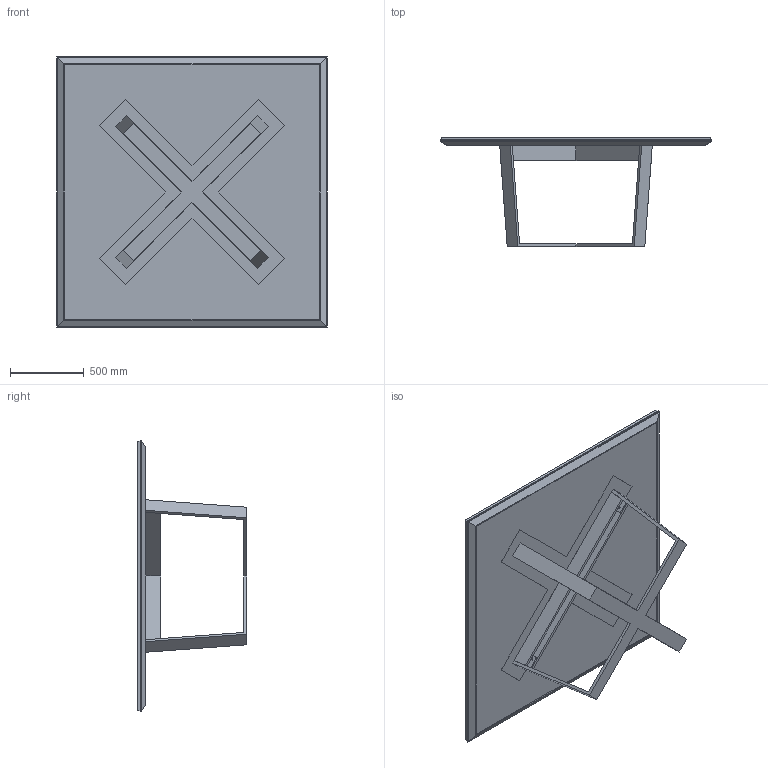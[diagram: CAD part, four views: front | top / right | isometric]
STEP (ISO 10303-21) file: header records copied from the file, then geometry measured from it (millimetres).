
FILE_DESCRIPTION(/* description */ ('','CAx-IF Rec.Pracs.---Representation and Presentation of Product Manufacturing Information (PMI)---4.0---2014-10-13'),/* implementation_level */ '2;1');
FILE_NAME(/* name */ 'TABLE_IMPRESS 8.stp',/* time_stamp */ '2024-12-07T16:03:21-05:00',/* author */ ('mbowman'),/* organization */ (''),/* preprocessor_version */ 'ST-DEVELOPER v19.2',/* originating_system */ 'Autodesk Inventor 2023',/* authorisation */ '');
FILE_SCHEMA (('AP242_MANAGED_MODEL_BASED_3D_ENGINEERING_MIM_LF { 1 0 10303 442 1 1 4 }'));
Length unit declared in the file: inch
Products named in the file (3): IMPRESS^TABLE 8_72sq X BASE-48 BASE SOLID ASSEMBLY; IMPRESS^TABLE 8_72sq X BASE-PARTS SOLID; IMPRESS^TABLE 8_72sq X BASE-48 BASE SOLID
Assembly tree (2 placements, depth 2):
  IMPRESS^TABLE 8_72sq X BASE-48 BASE SOLID ASSEMBLY
    IMPRESS^TABLE 8_72sq X BASE-PARTS SOLID
    IMPRESS^TABLE 8_72sq X BASE-48 BASE SOLID
Bounding box: 1835.15 x 742.95 x 1835.15 mm (x, y, z)
Volume: 211246452.4 mm3; surface area: 18976330.5 mm2
Topology: 17 solids, 17 shells, 209 faces, 528 edges, 352 vertices
Faces by surface type: plane 193, cylinder 16
Full cylindrical faces by diameter (mm): 7.938 x16
Entity records: 7318 total; most frequent: CARTESIAN_POINT 1495, ORIENTED_EDGE 1056, DIRECTION 1004, EDGE_CURVE 528, LINE 496, VECTOR 496, VERTEX_POINT 352, STYLED_ITEM 262
